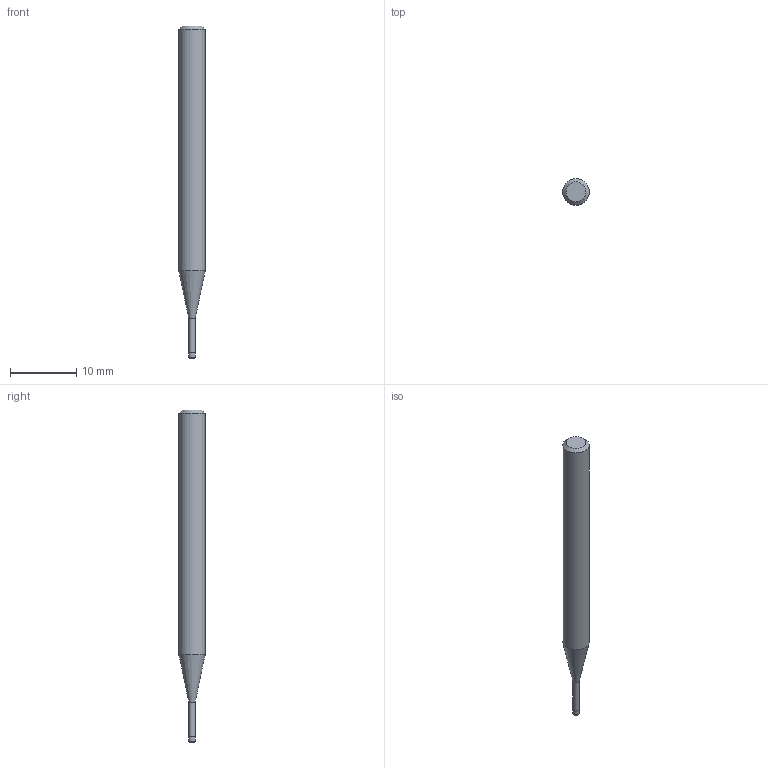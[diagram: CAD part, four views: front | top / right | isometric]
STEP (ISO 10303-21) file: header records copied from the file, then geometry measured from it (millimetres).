
FILE_DESCRIPTION((''),'2;1');
FILE_NAME('C:\Users\nsx150\AppData\Local\Temp\Mastercam 2021\17T8Q8S9EB\TEMP.step','2021-04-21T14:33:29',(''),(''),'STEP Write','Mastercam 2021 ... CNC Software, Inc.','');
FILE_SCHEMA(('AUTOMOTIVE_DESIGN'));
Length unit declared in the file: millimetre
Products named in the file (1): None
Bounding box: 4 x 4 x 50 mm (x, y, z)
Volume: 504.5 mm3; surface area: 548.5 mm2
Topology: 2 solids, 2 shells, 10 faces, 14 edges, 8 vertices
Faces by surface type: plane 4, cylinder 3, cone 2, torus 1
Full cylindrical faces by diameter (mm): 0.95 x1, 1 x1, 4 x1
Entity records: 232 total; most frequent: DIRECTION 40, CARTESIAN_POINT 28, AXIS2_PLACEMENT_3D 20, ORIENTED_EDGE 16, EDGE_LOOP 16, STYLED_ITEM 13, ADVANCED_FACE 10, FACE_BOUND 10
